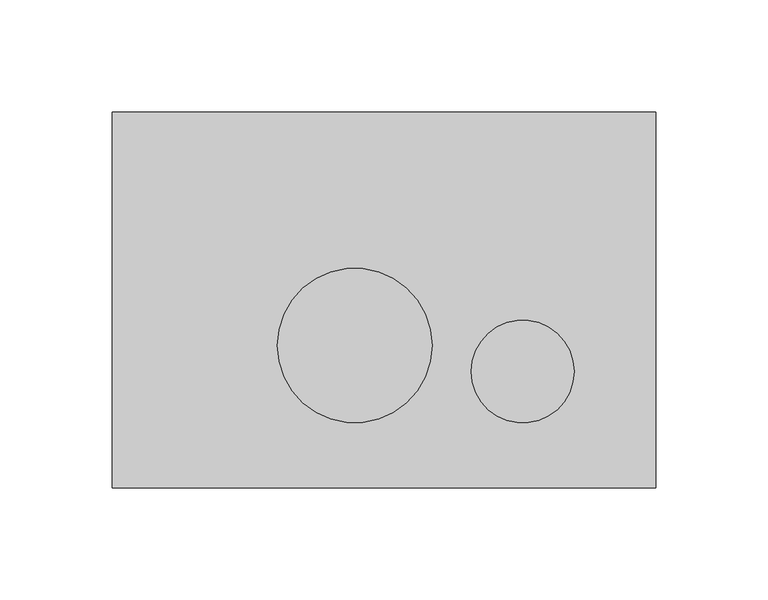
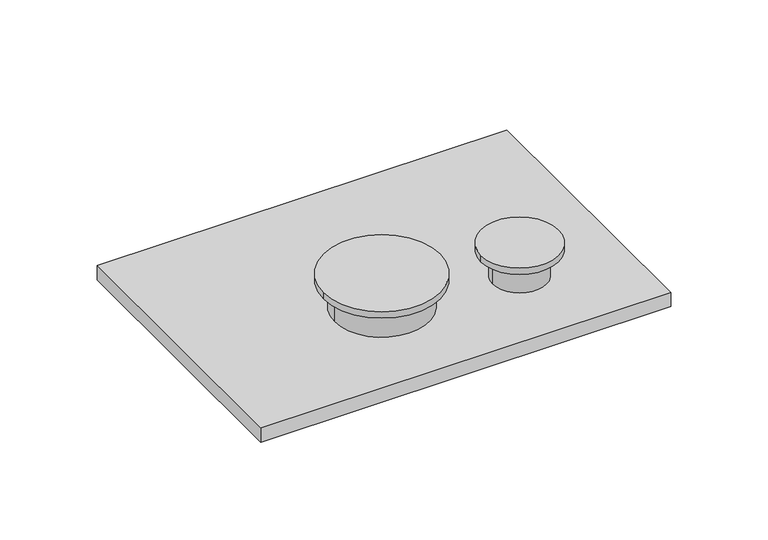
"""IFC4 building model written with IfcOpenShell, lengths in millimetres: flow terminal geometry, Beat : Beat."""

from ifc_helpers import new_model, si_unit, point, frame, frame_2d, origin, origin_with_axes, place, context, project, spatial, polyline, circle_curve, trimmed, segment, composite_curve, outline, extrude, source, transform, mapped, element, save


def flow_terminal_6a896c08(model_context):
    return source(origin(), model_context, "Body", "SweptSolid", [
        extrude(outline(composite_curve([segment(trimmed(circle_curve(frame_2d((-13.1019999, -20.4319997)), 28.0282323), [point((-41.1302322, -20.4319997))], [point((14.9262323, -20.4319997))], False, "CARTESIAN"), True, "CONTINUOUS"), segment(trimmed(circle_curve(frame_2d((-13.1019999, -20.4319997)), 28.0282323), [point((14.9262323, -20.4319997))], [point((-41.1302322, -20.4319997))], False, "CARTESIAN"), True, "CONTINUOUS")], self_intersect=False)), frame((0.0, 0.0, 8.9945412), z_axis=(0.0, 0.0, 1.0), x_axis=(1.0, 0.0, 0.0)), (0.0, 0.0, 1.0), 16.505458),
        extrude(outline(composite_curve([segment(trimmed(circle_curve(frame_2d((61.8914984, -32.0045028)), 15.9142941), [point((45.9772042, -32.0045028))], [point((77.8057925, -32.0045028))], False, "CARTESIAN"), True, "CONTINUOUS"), segment(trimmed(circle_curve(frame_2d((61.8914984, -32.0045028)), 15.9142941), [point((77.8057925, -32.0045028))], [point((45.9772042, -32.0045028))], False, "CARTESIAN"), True, "CONTINUOUS")], self_intersect=False)), frame((0.0, 0.0, 8.9945412), z_axis=(0.0, 0.0, 1.0), x_axis=(1.0, 0.0, 0.0)), (0.0, 0.0, 1.0), 16.505458),
        extrude(outline(composite_curve([segment(trimmed(circle_curve(frame_2d((-13.1019999, -20.4319997)), 34.5143514), [point((-47.6163513, -20.4319997))], [point((21.4123514, -20.4319997))], False, "CARTESIAN"), True, "CONTINUOUS"), segment(trimmed(circle_curve(frame_2d((-13.1019999, -20.4319997)), 34.5143514), [point((21.4123514, -20.4319997))], [point((-47.6163513, -20.4319997))], False, "CARTESIAN"), True, "CONTINUOUS")], self_intersect=False)), frame((0.0, 0.0, 25.4999992), z_axis=(0.0, 0.0, 1.0), x_axis=(1.0, 0.0, 0.0)), (0.0, 0.0, 1.0), 4.0074134),
        extrude(outline(composite_curve([segment(trimmed(circle_curve(frame_2d((61.8914984, -32.0045028)), 22.9575156), [point((38.9339828, -32.0045028))], [point((84.849014, -32.0045028))], False, "CARTESIAN"), True, "CONTINUOUS"), segment(trimmed(circle_curve(frame_2d((61.8914984, -32.0045028)), 22.9575156), [point((84.849014, -32.0045028))], [point((38.9339828, -32.0045028))], False, "CARTESIAN"), True, "CONTINUOUS")], self_intersect=False)), frame((0.0, 0.0, 25.4999992), z_axis=(0.0, 0.0, 1.0), x_axis=(1.0, 0.0, 0.0)), (0.0, 0.0, 1.0), 4.0074134),
        extrude(outline(polyline([(-121.3996284, 83.9478479), (121.363564, 83.9741622), (121.4002843, -83.9478478), (-121.4484331, -83.9741714), (-121.3996284, 83.9478479)])), origin_with_axes(), (0.0, 0.0, 1.0), 8.9945412),
    ])


if __name__ == "__main__":
    model = new_model("IFC4")
    model_context = context("Model", 3, world=origin())
    ifc_project = project(units=[si_unit("LENGTHUNIT", "METRE", prefix="MILLI")], contexts=[model_context])
    site = spatial("IfcSite", under=ifc_project)
    building = spatial("IfcBuilding", under=site)
    placement = place(None, origin())
    flow_terminal_shape = flow_terminal_6a896c08(model_context)
    element("IfcFlowTerminal", 1, ObjectType="Beat : Beat", at=placement, inside=building, context=model_context, shape_type="MappedRepresentation", body=[
        mapped(flow_terminal_shape, transform((0.0, 0.0, 0.0), x_axis=(1.0, 0.0, 0.0), y_axis=(0.0, 1.0, 0.0), z_axis=(0.0, 0.0, 1.0))),
    ])
    save(model, "model.ifc")
